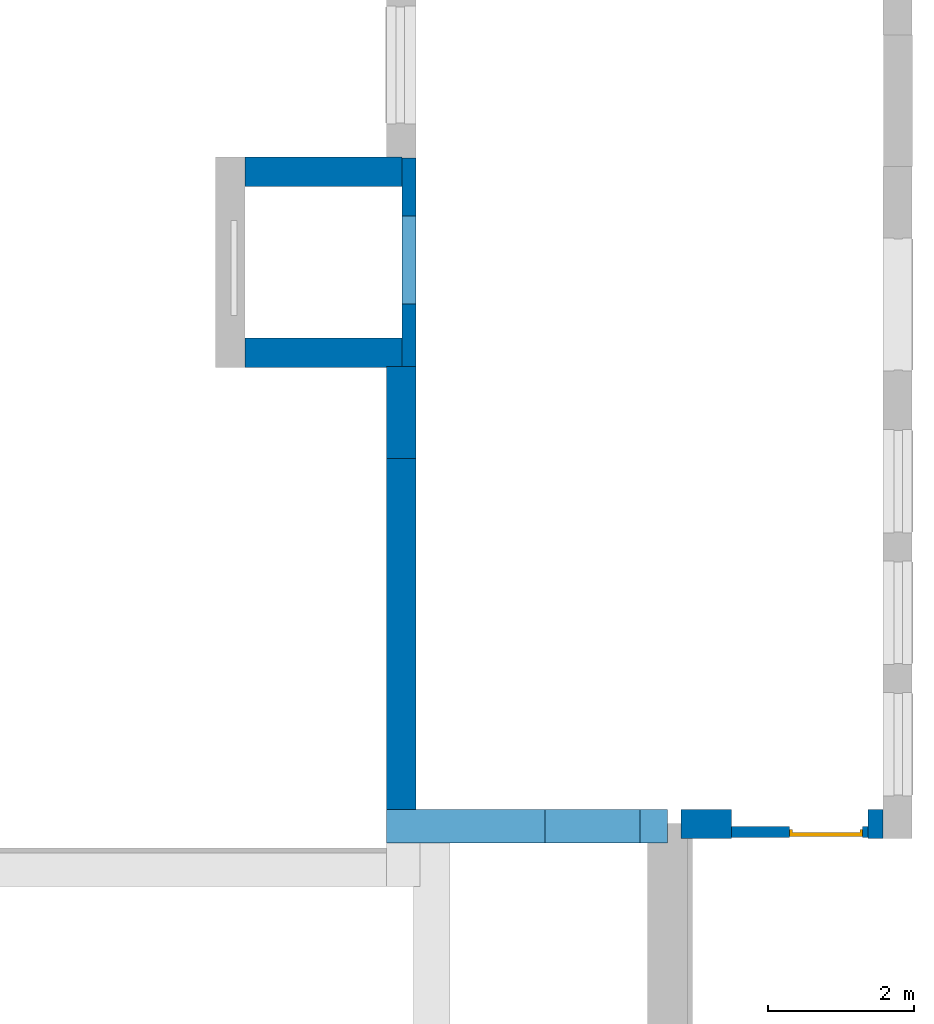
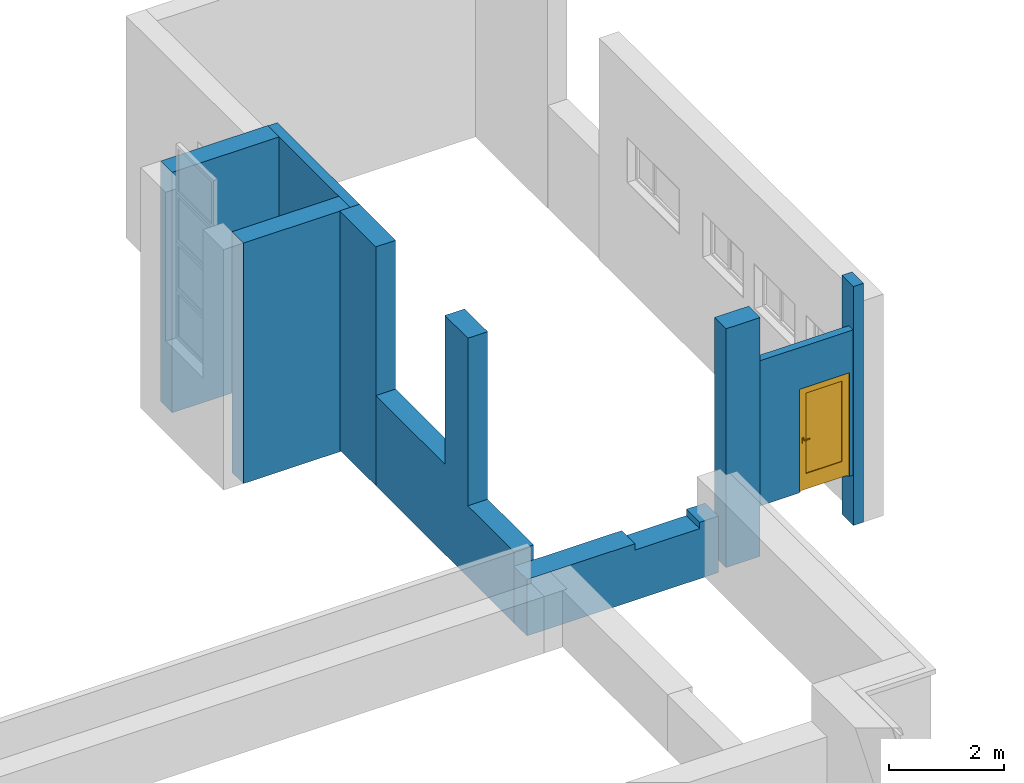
"""IFC2X3 building model written with IfcOpenShell, lengths in millimetres."""

from ifc_helpers import new_model, entity, si_unit, converted_unit, derived_unit, direction, frame, frame_2d, origin, place, context, subcontext, project, spatial, rectangle, extrude, faceted_brep, source, transform, mapped, material, material_list, layer, layer_set, layer_usage, type_object, type_shapes, element, fill, save


model = new_model("IFC2X3")

# Units and contexts
model_context = context("Model", 3, precision=0.01, world=origin(), true_north=direction((6.12303176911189e-17, 1.0)))
body_context = subcontext(model_context, "Body", "Model", "MODEL_VIEW")
ifc_project = project(units=[si_unit("LENGTHUNIT", "METRE", prefix="MILLI"), si_unit("AREAUNIT", "SQUARE_METRE"), si_unit("VOLUMEUNIT", "CUBIC_METRE"), converted_unit("PLANEANGLEUNIT", "DEGREE", entity("IfcRatioMeasure", 0.0174532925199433), si_unit("PLANEANGLEUNIT", "RADIAN"), dimensions=[0, 0, 0, 0, 0, 0, 0]), si_unit("MASSUNIT", "GRAM", prefix="KILO"), derived_unit("MASSDENSITYUNIT", [(si_unit("MASSUNIT", "GRAM", prefix="KILO"), 1), (si_unit("LENGTHUNIT", "METRE"), -3)]), si_unit("TIMEUNIT", "SECOND"), si_unit("FREQUENCYUNIT", "HERTZ"), si_unit("THERMODYNAMICTEMPERATUREUNIT", "DEGREE_CELSIUS"), derived_unit("THERMALTRANSMITTANCEUNIT", [(si_unit("MASSUNIT", "GRAM", prefix="KILO"), 1), (si_unit("THERMODYNAMICTEMPERATUREUNIT", "KELVIN"), -1), (si_unit("TIMEUNIT", "SECOND"), -3)]), derived_unit("VOLUMETRICFLOWRATEUNIT", [(si_unit("LENGTHUNIT", "METRE"), 3), (si_unit("TIMEUNIT", "SECOND"), -1)]), si_unit("ELECTRICCURRENTUNIT", "AMPERE"), si_unit("ELECTRICVOLTAGEUNIT", "VOLT"), si_unit("POWERUNIT", "WATT"), si_unit("FORCEUNIT", "NEWTON", prefix="KILO"), si_unit("ILLUMINANCEUNIT", "LUX"), si_unit("LUMINOUSFLUXUNIT", "LUMEN"), si_unit("LUMINOUSINTENSITYUNIT", "CANDELA"), derived_unit("USERDEFINED", [(si_unit("MASSUNIT", "GRAM", prefix="KILO"), -1), (si_unit("LENGTHUNIT", "METRE"), -2), (si_unit("TIMEUNIT", "SECOND"), 3), (si_unit("LUMINOUSFLUXUNIT", "LUMEN"), 1)]), derived_unit("LINEARVELOCITYUNIT", [(si_unit("LENGTHUNIT", "METRE"), 1), (si_unit("TIMEUNIT", "SECOND"), -1)]), si_unit("PRESSUREUNIT", "PASCAL"), derived_unit("USERDEFINED", [(si_unit("LENGTHUNIT", "METRE"), -2), (si_unit("MASSUNIT", "GRAM", prefix="KILO"), 1), (si_unit("TIMEUNIT", "SECOND"), -2)])], contexts=[model_context])

# Site, building, storey
site_placement = place(None, frame((-151.875543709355, 2715.0, 0.0)))
site = spatial("IfcSite", under=ifc_project, at=site_placement, Name="Surface", CompositionType="ELEMENT")
building_placement = place(site_placement, origin())
building = spatial("IfcBuilding", under=site, at=building_placement, CompositionType="ELEMENT")
storey_1_placement = place(building_placement, frame((0.0, 0.0, -1200.0)))
storey_1 = spatial("IfcBuildingStorey", under=building, at=storey_1_placement, Name="Vundament", CompositionType="ELEMENT", Elevation=-1199.99999999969)

# Wall, opening
ifc_material_1 = material(Name="Brick, Common")
ifc_layer_1 = layer(ifc_material_1, 440.0)
ifc_material_2 = material(Name="__Kips GN13_tava")
ifc_layer_2 = layer(ifc_material_2, 20.0)
ifc_layer_set_1 = layer_set([ifc_layer_1, ifc_layer_2], Name="Basic Wall:VS-1")
ifc_layer_usage_1 = layer_usage(ifc_layer_set_1, "AXIS2", "NEGATIVE", 230.0)
wall_type_1 = type_object("IfcWallType", Name="Basic Wall:VS-1", PredefinedType="STANDARD", material=ifc_layer_set_1)
wall_1_placement = place(storey_1_placement, frame((31602.6162682, 12980.0, 0.0)))
wall_1 = element("IfcWallStandardCase", 1, at=wall_1_placement, inside=storey_1, type_object=wall_type_1, material=ifc_layer_usage_1, Name="SEIN - 010", ObjectType="Basic Wall:VS-1", context=body_context, shape_type="SweptSolid", body=[
    extrude(rectangle(XDim=3844.00000000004, YDim=459.999999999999, at=frame_2d((1922.00000000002, 0.0), x_axis=(-1.0, 0.0))), origin(), (0.0, 0.0, 1.0), 1200.0),
])
opening_1_placement = place(wall_1_placement, origin())
element("IfcOpeningElement", 2, at=opening_1_placement, cuts=wall_1, Name="SEIN - 010", ObjectType="Opening", context=body_context, shape_type="SweptSolid", body=[
    extrude(rectangle(XDim=2099.99999999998, YDim=1300.0, at=frame_2d((1.13686837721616e-13, 0.0), x_axis=(1.0, 0.0))), frame((2819.0, -1754.0, 2115.0), z_axis=(0.0, 1.0, 0.0), x_axis=(0.0, 0.0, 1.0)), (0.0, 0.0, 1.0), 3048.0),
])

# Wall, openings
ifc_material_3 = material(Name="__Tuuletõkkeplaat")
ifc_layer_3 = layer(ifc_material_3, 9.0)
ifc_material_4 = material(Name="__Soojustus EPS")
ifc_layer_4 = layer(ifc_material_4, 200.0)
ifc_material_5 = material(Name="__Kergblokk")
ifc_layer_5 = layer(ifc_material_5, 190.0)
ifc_layer_set_2 = layer_set([ifc_layer_3, ifc_layer_4, ifc_layer_5], Name="Basic Wall:VS-2.2_Juurdeehituse välissein")
ifc_layer_usage_2 = layer_usage(ifc_layer_set_2, "AXIS2", "NEGATIVE", 199.5)
wall_type_2 = type_object("IfcWallType", Name="Basic Wall:VS-2.2_Juurdeehituse välissein", PredefinedType="STANDARD", material=ifc_layer_set_2)
wall_2_placement = place(storey_1_placement, frame((31802.1162682, 13210.0, 0.0), z_axis=(0.0, 0.0, 1.0), x_axis=(0.0, 1.0, 0.0)))
wall_2 = element("IfcWallStandardCase", 3, at=wall_2_placement, inside=storey_1, type_object=wall_type_2, material=ifc_layer_usage_2, Name="Basic Wall:VS-2.2_Juurdeehituse välissein", ObjectType="Basic Wall:VS-2.2_Juurdeehituse välissein", context=body_context, shape_type="SweptSolid", body=[
    extrude(rectangle(XDim=6051.00000016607, YDim=398.999999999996, at=frame_2d((3025.50000008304, -1.00897068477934e-12), x_axis=(-1.0, 0.0))), origin(), (0.0, 0.0, 1.0), 5075.00000000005),
])
opening_2_placement = place(wall_2_placement, origin())
element("IfcOpeningElement", 4, at=opening_2_placement, cuts=wall_2, Name="Basic Wall:VS-2.2_Juurdeehituse välissein", ObjectType="Opening", context=body_context, shape_type="SweptSolid", body=[
    extrude(rectangle(XDim=3559.99999999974, YDim=1599.99999999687, at=frame_2d((5.89068349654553e-10, 2.64776645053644e-10), x_axis=(0.0, 1.0))), frame((800.0, 199.50000000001, 3295.0), z_axis=(0.0, -1.0, 0.0), x_axis=(-1.0, 0.0, 0.0)), (0.0, 0.0, 1.0), 399.0),
])
opening_3_placement = place(wall_2_placement, origin())
element("IfcOpeningElement", 5, at=opening_3_placement, cuts=wall_2, Name="Basic Wall:VS-2.2_Juurdeehituse välissein", ObjectType="Opening", context=body_context, shape_type="SweptSolid", body=[
    extrude(rectangle(XDim=3159.99999999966, YDim=3651.00000016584, at=frame_2d((3.06954461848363e-12, -1.13686837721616e-12), x_axis=(1.0, 0.0))), frame((4225.50000008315, 199.499999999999, 3495.0), z_axis=(0.0, -1.0, 0.0), x_axis=(0.0, 0.0, 1.0)), (0.0, 0.0, 1.0), 399.0),
])

# Walls
ifc_layer_usage_3 = layer_usage(ifc_layer_set_2, "AXIS2", "NEGATIVE", 199.5)
wall_3_placement = place(storey_1_placement, frame((31802.1162682, 18010.0, 0.0), z_axis=(0.0, 0.0, 1.0), x_axis=(0.0, 1.0, 0.0)))
element("IfcWallStandardCase", 6, at=wall_3_placement, inside=storey_1, type_object=wall_type_2, material=ifc_layer_usage_3, Name="Basic Wall:VS-2.2_Juurdeehituse välissein", ObjectType="Basic Wall:VS-2.2_Juurdeehituse välissein", context=body_context, shape_type="SweptSolid", body=[
    extrude(rectangle(XDim=1260.00000016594, YDim=398.999999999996, at=frame_2d((630.00000008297, 0.0), x_axis=(-1.0, 0.0))), origin(), (0.0, 0.0, 1.0), 5075.00000000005),
])
ifc_layer_usage_4 = layer_usage(ifc_layer_set_2, "AXIS2", "NEGATIVE", 199.5)
wall_4_placement = place(storey_1_placement, frame((38596.1162682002, 13010.5, 0.0), z_axis=(0.0, 0.0, 1.0), x_axis=(-1.0, 0.0, 0.0)))
element("IfcWallStandardCase", 7, at=wall_4_placement, inside=storey_1, type_object=wall_type_2, material=ifc_layer_usage_4, Name="Basic Wall:VS-2.2_Juurdeehituse välissein", ObjectType="Basic Wall:VS-2.2_Juurdeehituse välissein", context=body_context, shape_type="SweptSolid", body=[
    extrude(rectangle(XDim=200.000000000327, YDim=399.0, at=frame_2d((299.500000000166, 5.25801624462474e-13), x_axis=(-1.0, 0.0))), origin(), (0.0, 0.0, 1.0), 5075.0),
])
ifc_layer_usage_5 = layer_usage(ifc_layer_set_2, "AXIS2", "NEGATIVE", 199.5)
wall_5_placement = place(storey_1_placement, frame((36321.6162681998, 13010.5, 0.0), z_axis=(0.0, 0.0, 1.0), x_axis=(-1.0, 0.0, 0.0)))
element("IfcWallStandardCase", 8, at=wall_5_placement, inside=storey_1, type_object=wall_type_2, material=ifc_layer_usage_5, Name="Basic Wall:VS-2.2_Juurdeehituse välissein", ObjectType="Basic Wall:VS-2.2_Juurdeehituse välissein", context=body_context, shape_type="SweptSolid", body=[
    extrude(rectangle(XDim=684.999999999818, YDim=399.0, at=frame_2d((342.499999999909, 7.53175299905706e-13), x_axis=(-1.0, 0.0))), origin(), (0.0, 0.0, 1.0), 5075.0),
])
ifc_layer_usage_6 = layer_usage(ifc_layer_set_2, "AXIS2", "NEGATIVE", 199.5)
wall_6_placement = place(storey_1_placement, frame((31811.6162682, 19460.5000001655, -35.0), z_axis=(0.0, 0.0, 1.0), x_axis=(-1.0, 0.0, 0.0)))
element("IfcWallStandardCase", 9, at=wall_6_placement, inside=storey_1, type_object=wall_type_2, material=ifc_layer_usage_6, Name="Basic Wall:VS-2.2_Juurdeehituse välissein", ObjectType="Basic Wall:VS-2.2_Juurdeehituse välissein", context=body_context, shape_type="SweptSolid", body=[
    extrude(rectangle(XDim=2149.99850106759, YDim=399.0, at=frame_2d((1074.99925053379, -1.4210854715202e-13), x_axis=(-1.0, 0.0))), origin(), (0.0, 0.0, 1.0), 5110.00000000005),
])
ifc_layer_usage_7 = layer_usage(ifc_layer_set_2, "AXIS2", "POSITIVE", -199.5)
wall_7_placement = place(storey_1_placement, frame((31811.6162682, 21939.5000001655, -35.0), z_axis=(0.0, 0.0, 1.0), x_axis=(-1.0, 0.0, 0.0)))
element("IfcWallStandardCase", 10, at=wall_7_placement, inside=storey_1, type_object=wall_type_2, material=ifc_layer_usage_7, Name="Basic Wall:VS-2.2_Juurdeehituse välissein", ObjectType="Basic Wall:VS-2.2_Juurdeehituse välissein", context=body_context, shape_type="SweptSolid", body=[
    extrude(rectangle(XDim=2149.99850106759, YDim=398.999999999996, at=frame_2d((1074.99925053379, 1.27897692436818e-13), x_axis=(-1.0, 0.0))), origin(), (0.0, 0.0, 1.0), 5110.00000000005),
])

# Wall, opening
ifc_material_6 = material(Name="_Klaas - must, peegelkile")
ifc_layer_6 = layer(ifc_material_6, 152.0)
ifc_layer_set_3 = layer_set([ifc_layer_6], Name="Basic Wall:Klaassein")
ifc_layer_usage_8 = layer_usage(ifc_layer_set_3, "AXIS2", "NEGATIVE", 76.0)
wall_type_3 = type_object("IfcWallType", Name="Basic Wall:Klaassein", PredefinedType="STANDARD", material=ifc_layer_set_3)
wall_8_placement = place(storey_1_placement, frame((38196.6162681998, 12896.0, 1065.0), z_axis=(0.0, 0.0, 1.0), x_axis=(-1.0, 0.0, 0.0)))
wall_8 = element("IfcWallStandardCase", 11, at=wall_8_placement, inside=storey_1, type_object=wall_type_3, material=ifc_layer_usage_8, Name="Basic Wall:Klaassein", ObjectType="Basic Wall:Klaassein", context=body_context, shape_type="SweptSolid", body=[
    extrude(rectangle(XDim=1875.00000000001, YDim=152.0, at=frame_2d((937.500000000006, -9.9475983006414e-14), x_axis=(-1.0, 0.0))), origin(), (0.0, 0.0, 1.0), 3085.00000000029),
])
opening_4_placement = place(wall_8_placement, frame((75.0, -76.0, 0.0)))
opening_4 = element("IfcOpeningElement", 12, at=opening_4_placement, cuts=wall_8, Name="Ühepoolsed:1000x2200_välisuks klaasiga:1", ObjectType="Opening", context=body_context, shape_type="SweptSolid", body=[
    extrude(rectangle(XDim=2199.99999999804, YDim=1000.0, at=frame_2d((1099.99999999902, 500.0), x_axis=(1.0, 0.0))), frame((0.0, 0.0, 0.0), z_axis=(0.0, 1.0, 0.0), x_axis=(0.0, 0.0, 1.0)), (0.0, 0.0, 1.0), 152.0),
])

# Storey
storey_2_placement = place(building_placement, frame((0.0, 0.0, -135.0)))
storey_2 = spatial("IfcBuildingStorey", under=building, at=storey_2_placement, Name="uus 1 korrus", CompositionType="ELEMENT", Elevation=-134.99999999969)

# Door
ifc_material_7 = material(Name="_Alumiiniumprofiil - must")
ifc_material_8 = material(Name="Steel/Aluminium")
ifc_material_9 = material(Name="Glass")
ifc_material_list_1 = material_list([ifc_material_7, ifc_material_8, ifc_material_9])
ifc_material_list_2 = material_list([ifc_material_7, ifc_material_8, ifc_material_9])
door_style = type_object("IfcDoorStyle", Name="1000x2200_välisuks klaasiga", ConstructionType="NOTDEFINED", OperationType="FOLDING_TO_LEFT", ParameterTakesPrecedence=False, Sizeable=False, material=ifc_material_list_2)
shared_shape = source(origin(), body_context, "Body", "Brep", [
    faceted_brep([(900.0, 42.0, 1112.5), (805.0, 42.0, 1112.5), (805.0, 37.0, 1112.5), (925.0, 37.0, 1112.5), (925.0, 80.0, 1112.5), (900.0, 80.0, 1112.5), (900.0, 42.0, 1087.5), (900.0, 80.0, 1087.5), (925.0, 80.0, 1087.5), (925.0, 37.0, 1087.5), (805.0, 37.0, 1087.5), (805.0, 42.0, 1087.5)], [[[0, 1, 2, 3, 4, 5]], [[6, 7, 8, 9, 10, 11]], [[5, 7, 6, 0]], [[4, 8, 7, 5]], [[3, 9, 8, 4]], [[2, 10, 9, 3]], [[1, 11, 10, 2]], [[0, 6, 11, 1]]]),
    faceted_brep([(887.500000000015, 80.0, 1137.5), (937.500000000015, 80.0, 1137.5), (937.500000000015, 82.0, 1137.5), (887.500000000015, 82.0, 1137.5), (887.500000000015, 80.0, 1017.5), (887.500000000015, 82.0, 1017.5), (937.500000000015, 82.0, 1017.5), (937.500000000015, 80.0, 1017.5)], [[[0, 1, 2, 3]], [[4, 5, 6, 7]], [[3, 5, 4, 0]], [[2, 6, 5, 3]], [[1, 7, 6, 2]], [[0, 4, 7, 1]]]),
    faceted_brep([(900.0, 172.0, 1112.5), (900.0, 134.0, 1112.5), (925.0, 134.0, 1112.5), (925.0, 177.0, 1112.5), (805.0, 177.0, 1112.5), (805.0, 172.0, 1112.5), (900.0, 172.0, 1087.5), (805.0, 172.0, 1087.5), (805.0, 177.0, 1087.5), (925.0, 177.0, 1087.5), (925.0, 134.0, 1087.5), (900.0, 134.0, 1087.5)], [[[0, 1, 2, 3, 4, 5]], [[6, 7, 8, 9, 10, 11]], [[1, 0, 6, 11]], [[2, 1, 11, 10]], [[3, 2, 10, 9]], [[4, 3, 9, 8]], [[5, 4, 8, 7]], [[0, 5, 7, 6]]]),
    faceted_brep([(887.500000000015, 134.0, 1137.5), (887.500000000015, 132.0, 1137.5), (937.500000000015, 132.0, 1137.5), (937.500000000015, 134.0, 1137.5), (887.500000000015, 134.0, 1017.5), (937.500000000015, 134.0, 1017.5), (937.500000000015, 132.0, 1017.5), (887.500000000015, 132.0, 1017.5)], [[[0, 1, 2, 3]], [[4, 5, 6, 7]], [[1, 0, 4, 7]], [[2, 1, 7, 6]], [[3, 2, 6, 5]], [[0, 3, 5, 4]]]),
    faceted_brep([(0.0, 42.0, 0.0), (0.0, 132.0, 0.0), (25.0, 132.0, 0.0), (25.0, 82.0, 0.0), (40.0, 82.0, 0.0), (40.0, 42.0, 0.0), (40.0, 42.0, 2160.0), (960.0, 42.0, 2160.0), (960.0, 42.0, 0.0), (1000.0, 42.0, 0.0), (1000.0, 42.0, 2200.0), (0.0, 42.0, 2200.0), (40.0, 82.0, 2160.0), (25.0, 82.0, 2175.0), (975.0, 82.0, 2175.0), (975.0, 82.0, 0.0), (960.0, 82.0, 0.0), (960.0, 82.0, 2160.0), (25.0, 132.0, 2175.0), (0.0, 132.0, 2200.0), (1000.0, 132.0, 2200.0), (1000.0, 132.0, 0.0), (975.0, 132.0, 0.0), (975.0, 132.0, 2175.0)], [[[0, 1, 2, 3, 4, 5]], [[5, 6, 7, 8, 9, 10, 11, 0]], [[4, 12, 6, 5]], [[3, 13, 14, 15, 16, 17, 12, 4]], [[2, 18, 13, 3]], [[1, 19, 20, 21, 22, 23, 18, 2]], [[0, 11, 19, 1]], [[9, 21, 20, 10]], [[8, 16, 15, 22, 21, 9]], [[7, 17, 16, 8]], [[14, 23, 22, 15]], [[6, 12, 17, 7]], [[13, 18, 23, 14]], [[10, 20, 19, 11]]]),
    faceted_brep([(140.0, 97.0, 350.0), (860.0, 97.0, 350.0), (860.0, 97.0, 2060.0), (140.0, 97.0, 2060.0), (140.0, 117.0, 350.0), (140.0, 117.0, 2060.0), (860.0, 117.0, 2060.0), (860.0, 117.0, 350.0)], [[[0, 1, 2, 3]], [[4, 5, 6, 7]], [[3, 5, 4, 0]], [[2, 6, 5, 3]], [[1, 7, 6, 2]], [[0, 4, 7, 1]]]),
    faceted_brep([(25.0, 82.0, 20.0), (975.0, 82.0, 20.0), (975.0, 82.0, 2175.0), (25.0, 82.0, 2175.0), (860.0, 82.0, 350.0), (140.0, 82.0, 350.0), (140.0, 82.0, 2060.0), (860.0, 82.0, 2060.0), (25.0, 132.0, 20.0), (25.0, 132.0, 2175.0), (975.0, 132.0, 2175.0), (975.0, 132.0, 20.0), (860.0, 132.0, 2060.0), (140.0, 132.0, 2060.0), (140.0, 132.0, 350.0), (860.0, 132.0, 350.0)], [[[0, 1, 2, 3], [4, 5, 6, 7]], [[8, 9, 10, 11], [12, 13, 14, 15]], [[3, 9, 8, 0]], [[2, 10, 9, 3]], [[1, 11, 10, 2]], [[0, 8, 11, 1]], [[12, 15, 4, 7]], [[15, 14, 5, 4]], [[14, 13, 6, 5]], [[7, 6, 13, 12]]]),
])
type_shapes(door_style, [shared_shape])
door_placement = place(opening_4_placement, origin())
door = element("IfcDoor", 13, at=door_placement, inside=storey_2, type_object=door_style, material=ifc_material_list_1, Name="Ühepoolsed:1000x2200_välisuks klaasiga", ObjectType="1000x2200_välisuks klaasiga", OverallHeight=2199.99999999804, OverallWidth=999.999999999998, context=body_context, shape_type="MappedRepresentation", body=[
    mapped(shared_shape, transform((0.0, 0.0, 0.0), scale=1.0)),
])

fill(opening_4, door)

# Wall, opening
ifc_layer_7 = layer(ifc_material_5, 190.0)
ifc_layer_set_4 = layer_set([ifc_layer_7], Name="Basic Wall:Juurdeehituse välissein_soojustuseta")
ifc_layer_usage_9 = layer_usage(ifc_layer_set_4, "AXIS2", "NEGATIVE", 95.0)
wall_type_4 = type_object("IfcWallType", Name="Basic Wall:Juurdeehituse välissein_soojustuseta", PredefinedType="STANDARD", material=ifc_layer_set_4)
wall_9_placement = place(storey_1_placement, frame((31906.6162682, 19270.0, -35.0), z_axis=(0.0, 0.0, 1.0), x_axis=(0.0, 1.0, 0.0)))
wall_9 = element("IfcWallStandardCase", 14, at=wall_9_placement, inside=storey_1, type_object=wall_type_4, material=ifc_layer_usage_9, Name="Basic Wall:Juurdeehituse välissein_soojustuseta", ObjectType="Basic Wall:Juurdeehituse välissein_soojustuseta", context=body_context, shape_type="SweptSolid", body=[
    extrude(rectangle(XDim=2860.0, YDim=190.0, at=frame_2d((1430.0, 0.0), x_axis=(-1.0, 0.0))), origin(), (0.0, 0.0, 1.0), 5109.99999999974),
])
opening_5_placement = place(wall_9_placement, origin())
element("IfcOpeningElement", 15, at=opening_5_placement, cuts=wall_9, Name="Basic Wall:Juurdeehituse välissein_soojustuseta", ObjectType="Opening", context=body_context, shape_type="SweptSolid", body=[
    extrude(rectangle(XDim=2179.99999999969, YDim=1199.99999983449, at=frame_2d((0.0, 2.1600499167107e-12), x_axis=(1.0, 0.0))), frame((1460.0, -95.0, 2190.0), z_axis=(0.0, 1.0, 0.0), x_axis=(0.0, 0.0, -1.0)), (0.0, 0.0, 1.0), 190.0),
])

save(model, "model.ifc")
